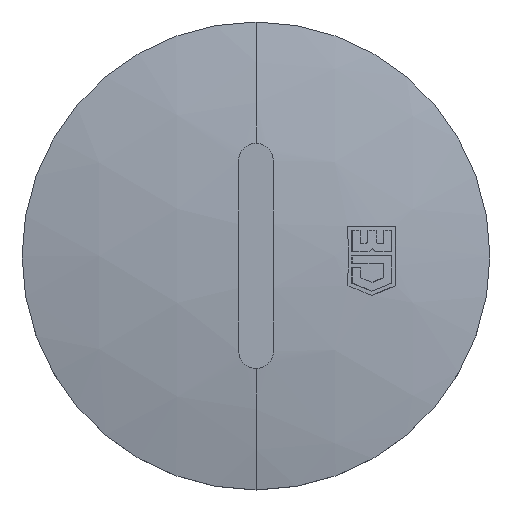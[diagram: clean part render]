
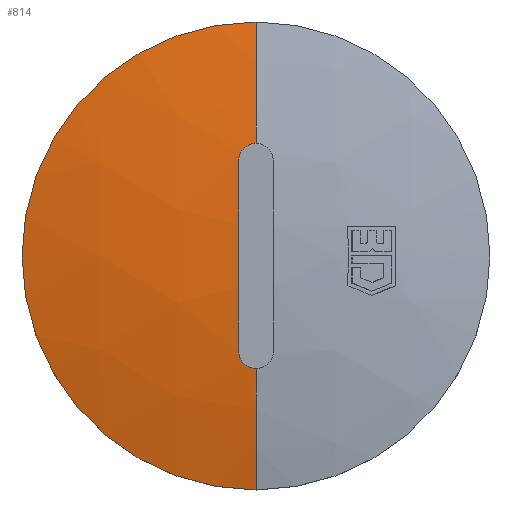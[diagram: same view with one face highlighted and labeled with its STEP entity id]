
A CAD part, top view. The second image highlights one B-rep face of the part: STEP entity #814.
In plain terms, the highlighted spherical face has radius 61.5 mm.
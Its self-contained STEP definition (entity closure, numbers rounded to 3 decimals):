
#46 = CARTESIAN_POINT ( 'NONE',  ( -1., 5.5, 9.745 ) ) ;
#801 = VERTEX_POINT ( 'NONE', #1658 ) ;
#803 = VERTEX_POINT ( 'NONE', #1652 ) ;
#811 = ORIENTED_EDGE ( 'NONE', *, *, #812, .T. ) ;
#812 = EDGE_CURVE ( 'NONE', #819, #815, #1639, .T. ) ;
#813 = EDGE_LOOP ( 'NONE', ( #891, #811, #887, #882, #884, #880 ) ) ;
#814 = ADVANCED_FACE ( 'NONE', ( #1640 ), #1637, .T. ) ;
#815 = VERTEX_POINT ( 'NONE', #1686 ) ;
#817 = EDGE_CURVE ( 'NONE', #834, #801, #1681, .T. ) ;
#819 = VERTEX_POINT ( 'NONE', #1682 ) ;
#830 = EDGE_CURVE ( 'NONE', #819, #803, #1706, .T. ) ;
#834 = VERTEX_POINT ( 'NONE', #1696 ) ;
#879 = EDGE_CURVE ( 'NONE', #815, #890, #1812, .T. ) ;
#880 = ORIENTED_EDGE ( 'NONE', *, *, #881, .F. ) ;
#881 = EDGE_CURVE ( 'NONE', #803, #801, #1808, .T. ) ;
#882 = ORIENTED_EDGE ( 'NONE', *, *, #883, .T. ) ;
#883 = EDGE_CURVE ( 'NONE', #890, #834, #1803, .T. ) ;
#884 = ORIENTED_EDGE ( 'NONE', *, *, #817, .T. ) ;
#887 = ORIENTED_EDGE ( 'NONE', *, *, #879, .T. ) ;
#890 = VERTEX_POINT ( 'NONE', #46 ) ;
#891 = ORIENTED_EDGE ( 'NONE', *, *, #830, .F. ) ;
#1631 = CARTESIAN_POINT ( 'NONE',  ( -0.894, -6.02, 9.699 ) ) ;
#1632 = CARTESIAN_POINT ( 'NONE',  ( -0.614, -6.3, 9.674 ) ) ;
#1633 = CARTESIAN_POINT ( 'NONE',  ( -0.504, -6.374, 9.667 ) ) ;
#1634 = CARTESIAN_POINT ( 'NONE',  ( -0.262, -6.474, 9.658 ) ) ;
#1635 = CARTESIAN_POINT ( 'NONE',  ( -0.131, -6.5, 9.656 ) ) ;
#1636 = CARTESIAN_POINT ( 'NONE',  ( 0., -6.5, 9.656 ) ) ;
#1637 = SPHERICAL_SURFACE ( 'NONE', #1638, 61.5 ) ;
#1638 = AXIS2_PLACEMENT_3D ( 'NONE', #1685, #1684, #1683 ) ;
#1639 = B_SPLINE_CURVE_WITH_KNOTS ( 'NONE', 3,
 ( #1636, #1635, #1634, #1633, #1632, #1631, #1688, #1687 ),
 .UNSPECIFIED., .F., .F.,
 ( 4, 2, 2, 4 ),
 ( 0.002, 0.002, 0.002, 0.003 ),
 .UNSPECIFIED. ) ;
#1640 = FACE_OUTER_BOUND ( 'NONE', #813, .T. ) ;
#1652 = CARTESIAN_POINT ( 'NONE',  ( 0., -13.5, 8.5 ) ) ;
#1658 = CARTESIAN_POINT ( 'NONE',  ( 0., 13.5, 8.5 ) ) ;
#1660 = CARTESIAN_POINT ( 'NONE',  ( 0., 0., -51.5 ) ) ;
#1677 = DIRECTION ( 'NONE',  ( 0., 0., 1. ) ) ;
#1678 = DIRECTION ( 'NONE',  ( -1., 0., 0. ) ) ;
#1679 = CARTESIAN_POINT ( 'NONE',  ( 0., 0., -51.5 ) ) ;
#1680 = AXIS2_PLACEMENT_3D ( 'NONE', #1679, #1678, #1677 ) ;
#1681 = CIRCLE ( 'NONE', #1680, 61.5 ) ;
#1682 = CARTESIAN_POINT ( 'NONE',  ( 0., -6.5, 9.656 ) ) ;
#1683 = DIRECTION ( 'NONE',  ( 0., 1., 0. ) ) ;
#1684 = DIRECTION ( 'NONE',  ( 1., 0., 0. ) ) ;
#1685 = CARTESIAN_POINT ( 'NONE',  ( 0., 0., -51.5 ) ) ;
#1686 = CARTESIAN_POINT ( 'NONE',  ( -1., -5.5, 9.745 ) ) ;
#1687 = CARTESIAN_POINT ( 'NONE',  ( -1., -5.5, 9.745 ) ) ;
#1688 = CARTESIAN_POINT ( 'NONE',  ( -1., -5.764, 9.722 ) ) ;
#1696 = CARTESIAN_POINT ( 'NONE',  ( 0., 6.5, 9.656 ) ) ;
#1703 = DIRECTION ( 'NONE',  ( 0., 1., 0. ) ) ;
#1704 = DIRECTION ( 'NONE',  ( 1., 0., 0. ) ) ;
#1705 = AXIS2_PLACEMENT_3D ( 'NONE', #1660, #1704, #1703 ) ;
#1706 = CIRCLE ( 'NONE', #1705, 61.5 ) ;
#1757 = CARTESIAN_POINT ( 'NONE',  ( -1., 0., -51.5 ) ) ;
#1791 = CARTESIAN_POINT ( 'NONE',  ( 0., 6.5, 9.656 ) ) ;
#1792 = CARTESIAN_POINT ( 'NONE',  ( -0.131, 6.5, 9.656 ) ) ;
#1793 = CARTESIAN_POINT ( 'NONE',  ( -0.263, 6.474, 9.658 ) ) ;
#1794 = CARTESIAN_POINT ( 'NONE',  ( -0.504, 6.374, 9.667 ) ) ;
#1795 = CARTESIAN_POINT ( 'NONE',  ( -0.615, 6.299, 9.674 ) ) ;
#1796 = CARTESIAN_POINT ( 'NONE',  ( -0.8, 6.114, 9.69 ) ) ;
#1797 = CARTESIAN_POINT ( 'NONE',  ( -0.874, 6.003, 9.7 ) ) ;
#1798 = CARTESIAN_POINT ( 'NONE',  ( -0.974, 5.761, 9.722 ) ) ;
#1799 = CARTESIAN_POINT ( 'NONE',  ( -1., 5.632, 9.734 ) ) ;
#1800 = CARTESIAN_POINT ( 'NONE',  ( -1., 5.5, 9.745 ) ) ;
#1803 = B_SPLINE_CURVE_WITH_KNOTS ( 'NONE', 3,
 ( #1800, #1799, #1798, #1797, #1796, #1795, #1794, #1793, #1792, #1791 ),
 .UNSPECIFIED., .F., .F.,
 ( 4, 2, 2, 2, 4 ),
 ( 0., 0., 0.001, 0.001, 0.002 ),
 .UNSPECIFIED. ) ;
#1804 = DIRECTION ( 'NONE',  ( 0., 1., 0. ) ) ;
#1805 = DIRECTION ( 'NONE',  ( 0., 0., -1. ) ) ;
#1806 = CARTESIAN_POINT ( 'NONE',  ( 0., 0., 8.5 ) ) ;
#1807 = AXIS2_PLACEMENT_3D ( 'NONE', #1806, #1805, #1804 ) ;
#1808 = CIRCLE ( 'NONE', #1807, 13.5 ) ;
#1809 = DIRECTION ( 'NONE',  ( 0., 0., -1. ) ) ;
#1810 = DIRECTION ( 'NONE',  ( -1., 0., 0. ) ) ;
#1811 = AXIS2_PLACEMENT_3D ( 'NONE', #1757, #1810, #1809 ) ;
#1812 = CIRCLE ( 'NONE', #1811, 61.492 ) ;
